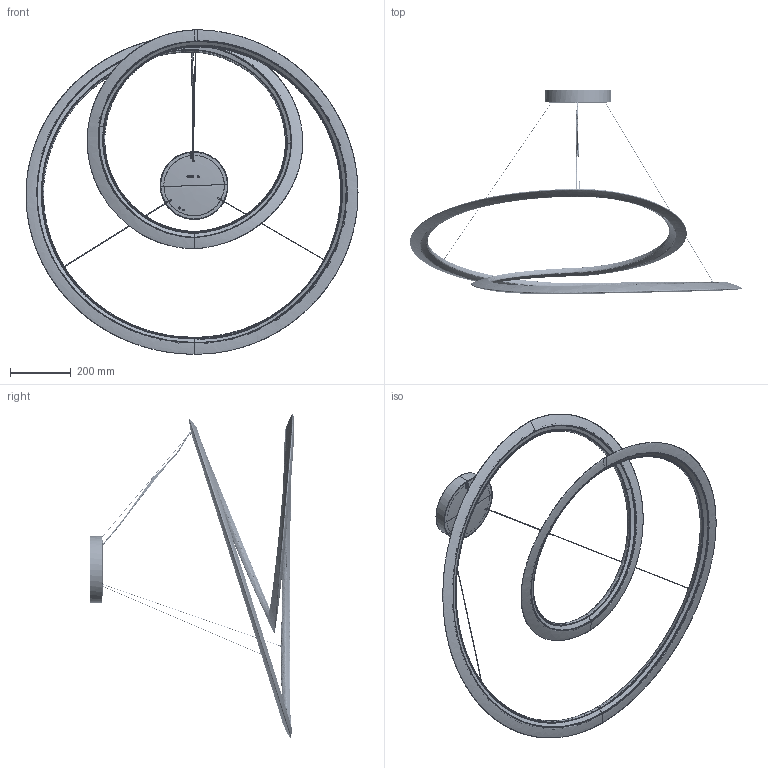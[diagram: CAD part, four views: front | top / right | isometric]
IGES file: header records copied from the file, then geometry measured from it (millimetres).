
Start section: SolidWorks IGES file using analytic representation for surfaces
Global section: file name: C:\Users\tungari.NEMOLIGHTING\Desktop\3D\PENDANT\3D_KEPLER_DOWN_LIGHT\def\3D_KEPLER_DOWNLIGHT.IGS; native system: SolidWorks 2016; preprocessor: SolidWorks 2016; author: tungari; date: 180406.121950; units: millimetre
Bounding box: 1096.15 x 676.33 x 1070.81 mm (x, y, z)
Surface area: 1345400.9 mm2 (no closed solid volume)
Topology: 0 solids, 0 shells, 300 faces, 2873 edges, 2872 vertices
Faces by surface type: bspline 252, revolution 48
